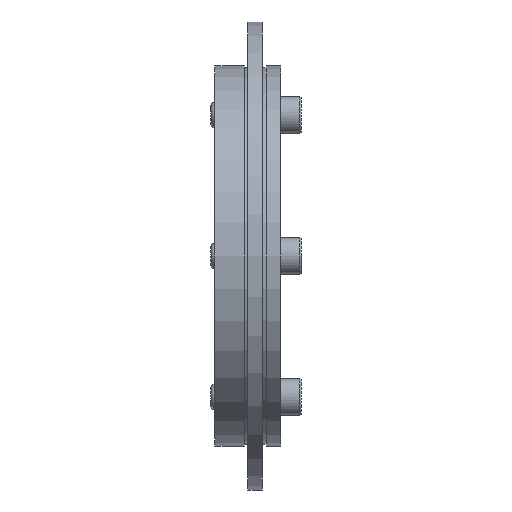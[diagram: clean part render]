
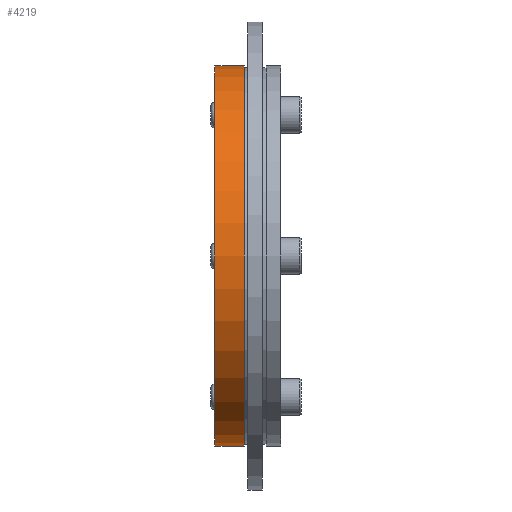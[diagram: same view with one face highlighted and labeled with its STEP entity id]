
A CAD part, left-side view. The second image highlights one B-rep face of the part: STEP entity #4219.
In plain terms, the highlighted cylindrical face has radius 52 mm (diameter 104 mm), a partial arc.
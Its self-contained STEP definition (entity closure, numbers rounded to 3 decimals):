
#24 = CARTESIAN_POINT ( 'NONE',  ( 0., 1., 0. ) ) ;
#210 = CIRCLE ( 'NONE', #7148, 52. ) ;
#515 = DIRECTION ( 'NONE',  ( 0., -1., 0. ) ) ;
#524 = AXIS2_PLACEMENT_3D ( 'NONE', #6586, #5227, #5455 ) ;
#947 = EDGE_CURVE ( 'NONE', #15092, #1786, #4116, .T. ) ;
#1311 = FACE_OUTER_BOUND ( 'NONE', #13218, .T. ) ;
#1772 = VERTEX_POINT ( 'NONE', #7018 ) ;
#1786 = VERTEX_POINT ( 'NONE', #5807 ) ;
#3561 = CARTESIAN_POINT ( 'NONE',  ( 0., 1., 0. ) ) ;
#3722 = DIRECTION ( 'NONE',  ( 0., -1., 0. ) ) ;
#3852 = EDGE_CURVE ( 'NONE', #1786, #1772, #5417, .T. ) ;
#4116 = CIRCLE ( 'NONE', #524, 52. ) ;
#4219 = ADVANCED_FACE ( 'NONE', ( #1311 ), #7341, .T. ) ;
#4572 = DIRECTION ( 'NONE',  ( 0., -1., 0. ) ) ;
#4918 = DIRECTION ( 'NONE',  ( 0., 0., 1. ) ) ;
#4919 = DIRECTION ( 'NONE',  ( 0., 1., 0. ) ) ;
#5078 = ORIENTED_EDGE ( 'NONE', *, *, #10376, .F. ) ;
#5227 = DIRECTION ( 'NONE',  ( 0., 1., 0. ) ) ;
#5228 = VERTEX_POINT ( 'NONE', #10503 ) ;
#5417 = LINE ( 'NONE', #15054, #9119 ) ;
#5455 = DIRECTION ( 'NONE',  ( 0., 0., -1. ) ) ;
#5681 = AXIS2_PLACEMENT_3D ( 'NONE', #24, #4919, #14798 ) ;
#5807 = CARTESIAN_POINT ( 'NONE',  ( 0., 9., 52. ) ) ;
#6586 = CARTESIAN_POINT ( 'NONE',  ( 0., 9., 0. ) ) ;
#7018 = CARTESIAN_POINT ( 'NONE',  ( 0., 1., 52. ) ) ;
#7148 = AXIS2_PLACEMENT_3D ( 'NONE', #3561, #3722, #4918 ) ;
#7341 = CYLINDRICAL_SURFACE ( 'NONE', #5681, 52. ) ;
#7963 = LINE ( 'NONE', #9506, #9404 ) ;
#9119 = VECTOR ( 'NONE', #515, 1000. ) ;
#9404 = VECTOR ( 'NONE', #4572, 1000. ) ;
#9506 = CARTESIAN_POINT ( 'NONE',  ( 0., 9., -52. ) ) ;
#9929 = ORIENTED_EDGE ( 'NONE', *, *, #15750, .T. ) ;
#10376 = EDGE_CURVE ( 'NONE', #1772, #5228, #210, .T. ) ;
#10503 = CARTESIAN_POINT ( 'NONE',  ( 0., 1., -52. ) ) ;
#12290 = ORIENTED_EDGE ( 'NONE', *, *, #947, .F. ) ;
#13218 = EDGE_LOOP ( 'NONE', ( #5078, #13896, #12290, #9929 ) ) ;
#13896 = ORIENTED_EDGE ( 'NONE', *, *, #3852, .F. ) ;
#14643 = CARTESIAN_POINT ( 'NONE',  ( 0., 9., -52. ) ) ;
#14798 = DIRECTION ( 'NONE',  ( 0., 0., 1. ) ) ;
#15054 = CARTESIAN_POINT ( 'NONE',  ( 0., 9., 52. ) ) ;
#15092 = VERTEX_POINT ( 'NONE', #14643 ) ;
#15750 = EDGE_CURVE ( 'NONE', #15092, #5228, #7963, .T. ) ;
